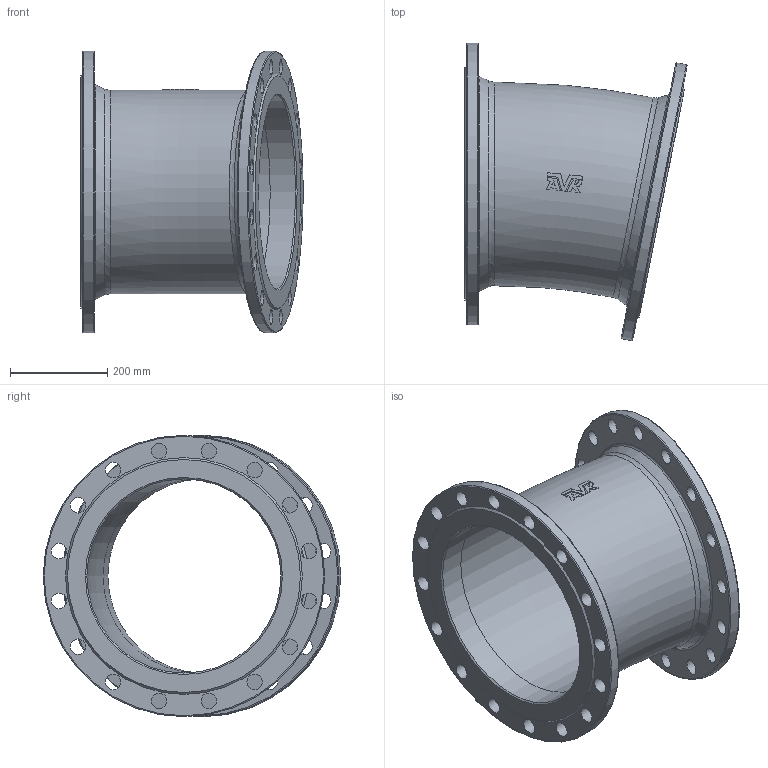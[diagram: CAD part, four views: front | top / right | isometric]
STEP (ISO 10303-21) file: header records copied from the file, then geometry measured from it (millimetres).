
FILE_DESCRIPTION (( 'STEP AP203' ), '1' );
FILE_NAME ('O_712_0110_DN400_1X_REV02.step', '2024-08-15T09:09:06', ( '' ), ( '' ), 'SwSTEP 2.0', 'SolidWorks 2022', '' );
FILE_SCHEMA (( 'CONFIG_CONTROL_DESIGN' ));
Length unit declared in the file: millimetre
Products named in the file (1): O_712_0110_DN400_1X_REV02
Bounding box: 458.34 x 613.27 x 580 mm (x, y, z)
Volume: 11489224.9 mm3; surface area: 1589848.9 mm2
Topology: 1 solids, 1 shells, 99 faces, 291 edges, 202 vertices
Faces by surface type: plane 41, cylinder 38, torus 12, cone 6, bspline 2
Full cylindrical faces by diameter (mm): 32 x32, 400 x2, 580 x2
Entity records: 5018 total; most frequent: CARTESIAN_POINT 2697, DIRECTION 405, ORIENTED_EDGE 402, EDGE_LOOP 225, EDGE_CURVE 201, AXIS2_PLACEMENT_3D 184, VERTEX_POINT 164, FACE_OUTER_BOUND 145
